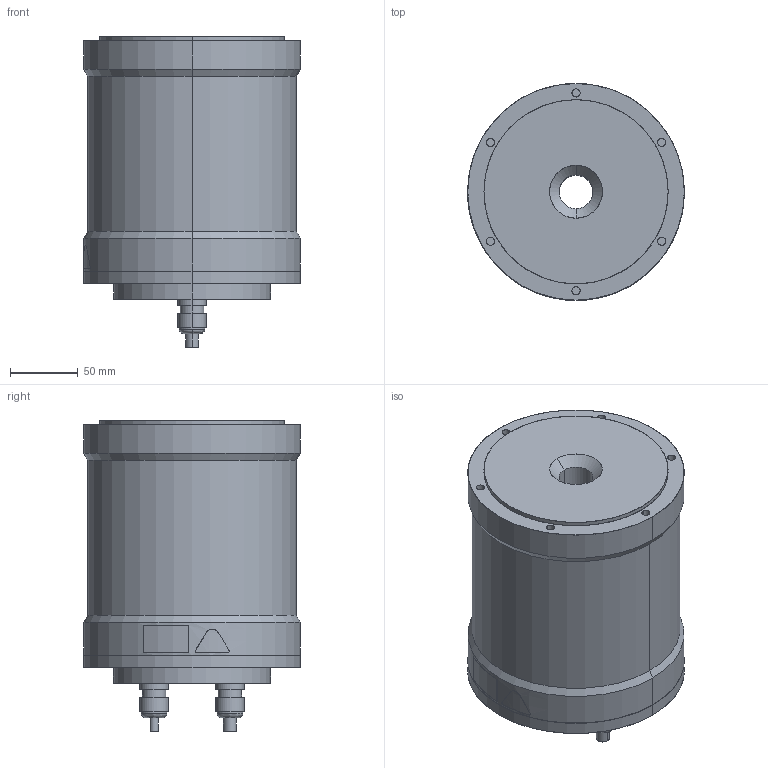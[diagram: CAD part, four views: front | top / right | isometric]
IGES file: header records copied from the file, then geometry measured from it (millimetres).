
Start section: SolidWorks IGES file using analytic representation for surfaces
Bounding box: 160.06 x 160 x 229.4 mm (x, y, z)
Surface area: 157885.9 mm2 (no closed solid volume)
Topology: 0 solids, 0 shells, 211 faces, 4654 edges, 4654 vertices
Faces by surface type: revolution 128, bspline 83
